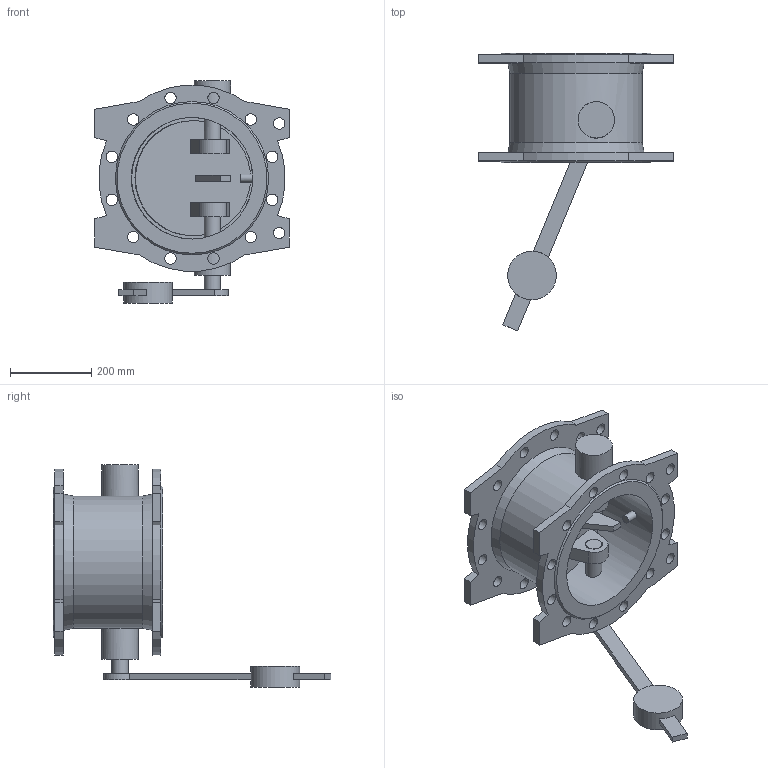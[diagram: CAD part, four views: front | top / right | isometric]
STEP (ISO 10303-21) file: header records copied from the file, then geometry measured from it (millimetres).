
FILE_DESCRIPTION(('STEP AP203'), '1');
FILE_NAME('Êëàïàí 015F.PV DN300 PN16 ñ ïðîòèâîâåñîì', '', ('UNSPECIFIED'), ('UNSPECIFIED'), 'ASCON STEP Converter 1.6', 'ASCON Math Kernel', '');
FILE_SCHEMA(('CONFIG_CONTROL_DESIGN'));
Length unit declared in the file: millimetre
Bounding box: 480 x 685 x 548 mm (x, y, z)
Volume: 11028359.6 mm3; surface area: 1376851.1 mm2
Topology: 1 solids, 1 shells, 120 faces, 297 edges, 197 vertices
Faces by surface type: plane 63, cylinder 50, cone 4, extrusion 2, bspline 1
Full cylindrical faces by diameter (mm): 20 x1, 28 x28, 40 x3, 42 x2, 90 x2, 120 x1, 300 x1, 326 x1
Entity records: 5318 total; most frequent: CARTESIAN_POINT 1446, DIRECTION 578, ORIENTED_EDGE 500, EDGE_CURVE 250, EDGE_LOOP 246, AXIS2_PLACEMENT_3D 223, VERTEX_POINT 196, FACE_BOUND 156
